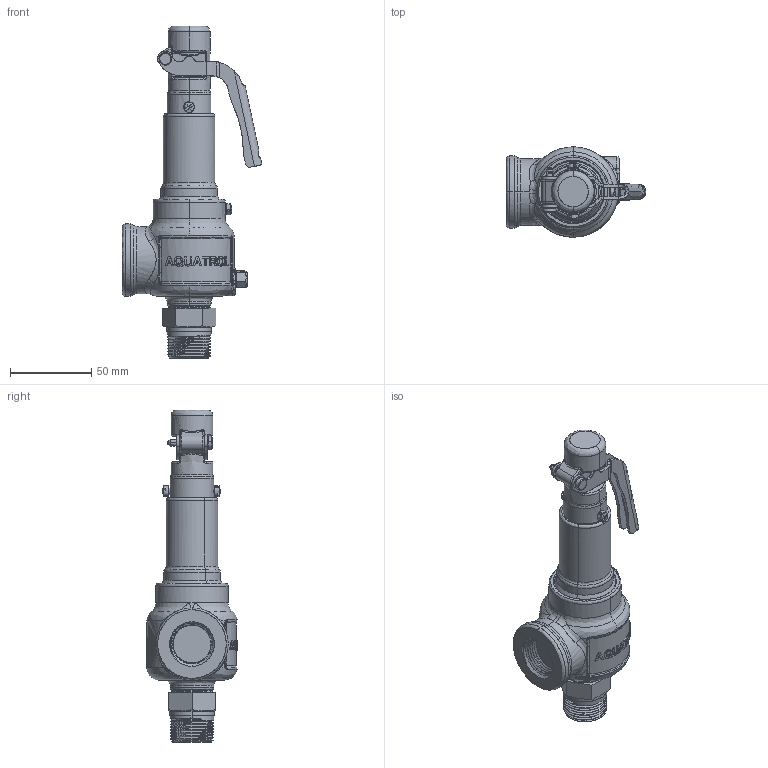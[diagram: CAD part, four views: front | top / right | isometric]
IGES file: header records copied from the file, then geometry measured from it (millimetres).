
Start section: SolidWorks IGES file using NURBS representation for surfaces
Global section: file name: C:\Design\Design\Aquatrol\Customer 3D Files\Series 740 Customer Files\D Orifice\Customer\Iges Files\Series 740 D 750 x 750 Open Lever.IGS; native system: SolidWorks 2015; preprocessor: SolidWorks 2015; author: Karl; date: 150515.081219; units: inch
Bounding box: 86.11 x 55.56 x 204.47 mm (x, y, z)
Surface area: 37676.1 mm2 (no closed solid volume)
Topology: 0 solids, 0 shells, 551 faces, 8780 edges, 8780 vertices
Faces by surface type: bspline 551
